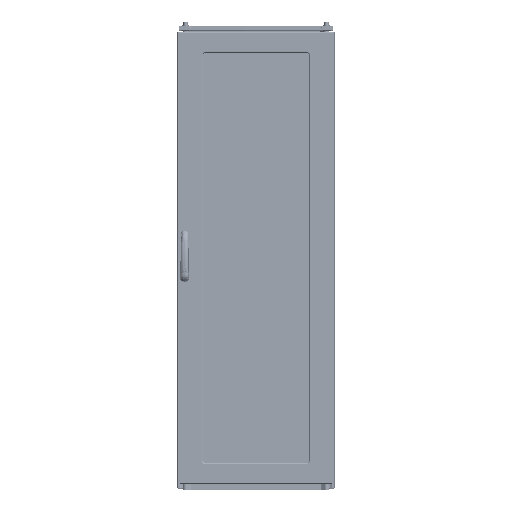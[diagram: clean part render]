
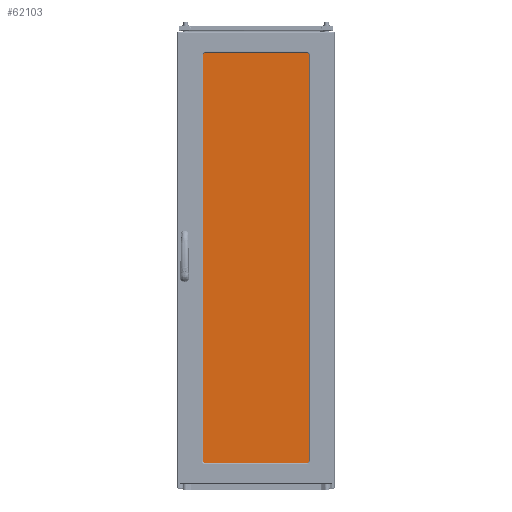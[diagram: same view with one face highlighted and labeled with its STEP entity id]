
A CAD part, top view. The second image highlights one B-rep face of the part: STEP entity #62103.
In plain terms, the highlighted planar face has unit normal (0, 0, 1).
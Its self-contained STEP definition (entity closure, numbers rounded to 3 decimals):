
#17157 = VECTOR ( 'NONE', #103289, 1000. ) ;
#36804 = CARTESIAN_POINT ( 'NONE',  ( 0., 0., 4. ) ) ;
#38266 = LINE ( 'NONE', #223986, #17157 ) ;
#42195 = ORIENTED_EDGE ( 'NONE', *, *, #292343, .T. ) ;
#59248 = VERTEX_POINT ( 'NONE', #85185 ) ;
#62103 = ADVANCED_FACE ( 'NONE', ( #152461 ), #221901, .T. ) ;
#71163 = DIRECTION ( 'NONE',  ( -1., 0., 0. ) ) ;
#85039 = CARTESIAN_POINT ( 'NONE',  ( 0., 0., 4. ) ) ;
#85185 = CARTESIAN_POINT ( 'NONE',  ( 0., -446., 4. ) ) ;
#86020 = DIRECTION ( 'NONE',  ( 1., 0., 0. ) ) ;
#101501 = EDGE_LOOP ( 'NONE', ( #42195, #150148, #204887, #123236 ) ) ;
#103289 = DIRECTION ( 'NONE',  ( 1., 0., 0. ) ) ;
#105990 = DIRECTION ( 'NONE',  ( 0., 1., 0. ) ) ;
#107679 = LINE ( 'NONE', #85039, #179229 ) ;
#120159 = VECTOR ( 'NONE', #105990, 1000. ) ;
#123236 = ORIENTED_EDGE ( 'NONE', *, *, #167758, .T. ) ;
#133170 = VERTEX_POINT ( 'NONE', #148811 ) ;
#137419 = AXIS2_PLACEMENT_3D ( 'NONE', #270206, #244571, #86020 ) ;
#148811 = CARTESIAN_POINT ( 'NONE',  ( 1631., 0., 4. ) ) ;
#150148 = ORIENTED_EDGE ( 'NONE', *, *, #268067, .T. ) ;
#150426 = CARTESIAN_POINT ( 'NONE',  ( 1631., -446., 4. ) ) ;
#152461 = FACE_OUTER_BOUND ( 'NONE', #101501, .T. ) ;
#167758 = EDGE_CURVE ( 'NONE', #133170, #217552, #276511, .T. ) ;
#179229 = VECTOR ( 'NONE', #204203, 1000. ) ;
#181396 = CARTESIAN_POINT ( 'NONE',  ( 1631., 0., 4. ) ) ;
#204203 = DIRECTION ( 'NONE',  ( 0., -1., 0. ) ) ;
#204887 = ORIENTED_EDGE ( 'NONE', *, *, #254650, .T. ) ;
#210040 = CARTESIAN_POINT ( 'NONE',  ( 0., 0., 4. ) ) ;
#217552 = VERTEX_POINT ( 'NONE', #36804 ) ;
#221901 = PLANE ( 'NONE',  #137419 ) ;
#223986 = CARTESIAN_POINT ( 'NONE',  ( 0., -446., 4. ) ) ;
#244571 = DIRECTION ( 'NONE',  ( 0., 0., 1. ) ) ;
#254650 = EDGE_CURVE ( 'NONE', #269552, #133170, #270517, .T. ) ;
#268067 = EDGE_CURVE ( 'NONE', #59248, #269552, #38266, .T. ) ;
#269552 = VERTEX_POINT ( 'NONE', #150426 ) ;
#270206 = CARTESIAN_POINT ( 'NONE',  ( 0., -446., 4. ) ) ;
#270517 = LINE ( 'NONE', #181396, #120159 ) ;
#276511 = LINE ( 'NONE', #210040, #282643 ) ;
#282643 = VECTOR ( 'NONE', #71163, 1000. ) ;
#292343 = EDGE_CURVE ( 'NONE', #217552, #59248, #107679, .T. ) ;
